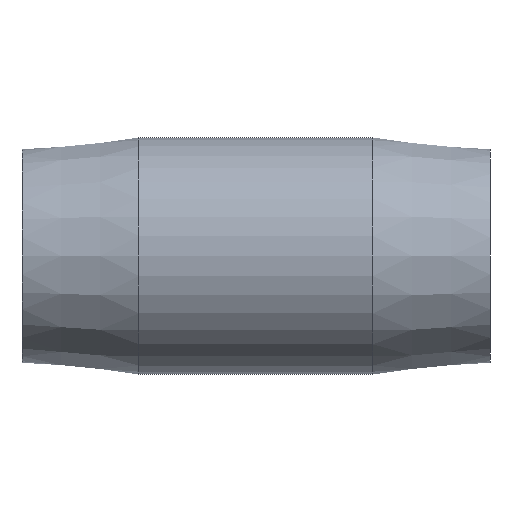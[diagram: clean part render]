
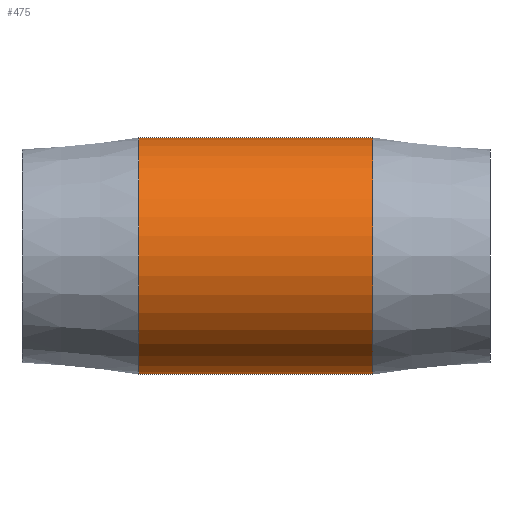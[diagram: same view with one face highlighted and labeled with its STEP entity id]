
A CAD part, front view. The second image highlights one B-rep face of the part: STEP entity #475.
In plain terms, the highlighted cylindrical face has radius 18.034 mm (diameter 36.068 mm), a full revolution.
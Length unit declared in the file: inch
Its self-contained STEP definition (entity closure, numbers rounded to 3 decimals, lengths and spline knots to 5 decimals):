
#47=LINE('',#902,#63);
#63=VECTOR('',#649,0.71);
#77=CYLINDRICAL_SURFACE('',#537,0.71);
#97=FACE_OUTER_BOUND('',#131,.T.);
#131=EDGE_LOOP('',(#357,#358,#359,#360,#361,#362,#363,#364));
#163=CIRCLE('',#533,0.71);
#164=CIRCLE('',#536,0.71);
#165=CIRCLE('',#538,0.71);
#166=CIRCLE('',#539,0.71);
#167=CIRCLE('',#540,0.71);
#168=CIRCLE('',#541,0.71);
#207=VERTEX_POINT('',#785);
#210=VERTEX_POINT('',#810);
#211=VERTEX_POINT('',#843);
#213=VERTEX_POINT('',#853);
#215=VERTEX_POINT('',#899);
#216=VERTEX_POINT('',#901);
#264=EDGE_CURVE('',#210,#207,#163,.T.);
#270=EDGE_CURVE('',#213,#211,#164,.T.);
#271=EDGE_CURVE('',#215,#210,#165,.T.);
#272=EDGE_CURVE('',#215,#216,#47,.T.);
#273=EDGE_CURVE('',#216,#213,#166,.T.);
#274=EDGE_CURVE('',#211,#216,#167,.T.);
#275=EDGE_CURVE('',#207,#215,#168,.T.);
#357=ORIENTED_EDGE('',*,*,#264,.F.);
#358=ORIENTED_EDGE('',*,*,#271,.F.);
#359=ORIENTED_EDGE('',*,*,#272,.T.);
#360=ORIENTED_EDGE('',*,*,#273,.T.);
#361=ORIENTED_EDGE('',*,*,#270,.T.);
#362=ORIENTED_EDGE('',*,*,#274,.T.);
#363=ORIENTED_EDGE('',*,*,#272,.F.);
#364=ORIENTED_EDGE('',*,*,#275,.F.);
#475=ADVANCED_FACE('',(#97),#77,.T.);
#533=AXIS2_PLACEMENT_3D('',#841,#636,#637);
#536=AXIS2_PLACEMENT_3D('',#897,#643,#644);
#537=AXIS2_PLACEMENT_3D('',#898,#645,#646);
#538=AXIS2_PLACEMENT_3D('',#900,#647,#648);
#539=AXIS2_PLACEMENT_3D('',#903,#650,#651);
#540=AXIS2_PLACEMENT_3D('',#904,#652,#653);
#541=AXIS2_PLACEMENT_3D('',#905,#654,#655);
#636=DIRECTION('center_axis',(1.,0.,0.));
#637=DIRECTION('ref_axis',(0.,0.,-1.));
#643=DIRECTION('center_axis',(1.,0.,0.));
#644=DIRECTION('ref_axis',(0.,0.,-1.));
#645=DIRECTION('center_axis',(1.,0.,0.));
#646=DIRECTION('ref_axis',(0.,1.,0.));
#647=DIRECTION('center_axis',(1.,0.,0.));
#648=DIRECTION('ref_axis',(0.,0.,-1.));
#649=DIRECTION('',(-1.,0.,0.));
#650=DIRECTION('center_axis',(1.,0.,0.));
#651=DIRECTION('ref_axis',(0.,0.,-1.));
#652=DIRECTION('center_axis',(1.,0.,0.));
#653=DIRECTION('ref_axis',(0.,0.,-1.));
#654=DIRECTION('center_axis',(1.,0.,0.));
#655=DIRECTION('ref_axis',(0.,0.,-1.));
#785=CARTESIAN_POINT('',(0.7,0.68144,0.19936));
#810=CARTESIAN_POINT('',(0.7,0.68144,-0.19936));
#841=CARTESIAN_POINT('Origin',(0.7,0.,0.));
#843=CARTESIAN_POINT('',(-0.7,0.68144,0.19936));
#853=CARTESIAN_POINT('',(-0.7,0.68144,-0.19936));
#897=CARTESIAN_POINT('Origin',(-0.7,0.,0.));
#898=CARTESIAN_POINT('Origin',(0.,0.,0.));
#899=CARTESIAN_POINT('',(0.7,-0.71,0.));
#900=CARTESIAN_POINT('Origin',(0.7,0.,0.));
#901=CARTESIAN_POINT('',(-0.7,-0.71,0.));
#902=CARTESIAN_POINT('',(0.,-0.71,0.));
#903=CARTESIAN_POINT('Origin',(-0.7,0.,0.));
#904=CARTESIAN_POINT('Origin',(-0.7,0.,0.));
#905=CARTESIAN_POINT('Origin',(0.7,0.,0.));
